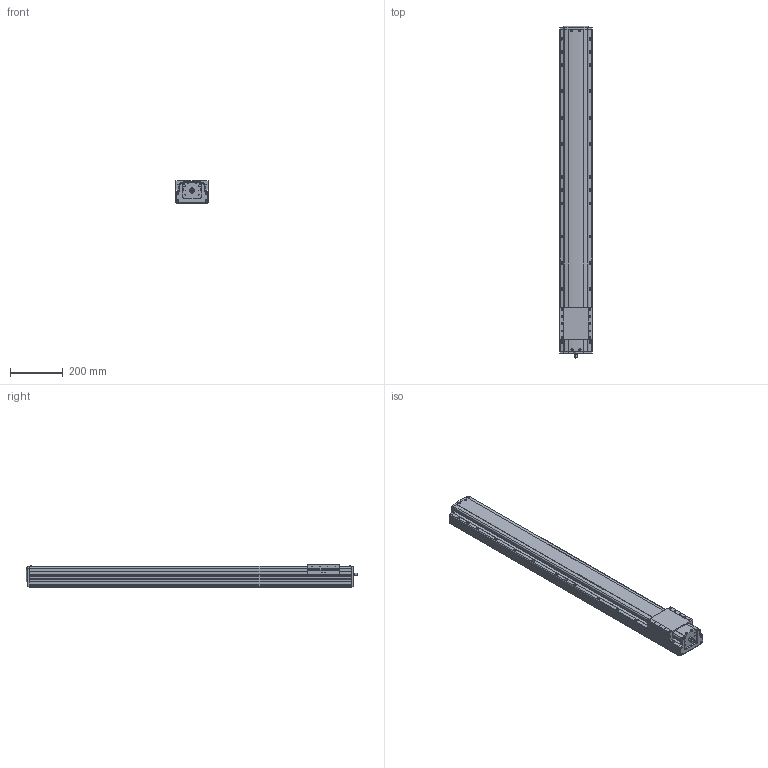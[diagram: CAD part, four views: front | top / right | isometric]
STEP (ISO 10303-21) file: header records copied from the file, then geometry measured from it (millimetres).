
FILE_DESCRIPTION(('STEP AP214'),'1');
FILE_NAME('Z:/Web/3D/PSA125/STP/PSA125-1000 (3D)/PSA125ㅁㅁ-1000.stp','2014-06-23T05:06:32',(' '),(' '),'Spatial InterOp 3D',' ',' ');
FILE_SCHEMA(('automotive_design'));
Length unit declared in the file: millimetre
Products named in the file (18): 스크루 : Round - M4.0 x 10.0; RRCV-PA120; SLIDE; BASE; FRCV-PA120-1(기준 뿔 제거); RR1500; 스크루 : Round - M4.0 x 6.0; 너트 : Square - M10.0 x 220.7419
Bounding box: 125 x 1258.1 x 86 mm (x, y, z)
Volume: 10292975.7 mm3; surface area: 790010.9 mm2
Topology: 18 solids, 18 shells, 1954 faces, 5281 edges, 3354 vertices
Faces by surface type: plane 1022, cylinder 624, cone 220, sphere 32, bspline 31, torus 25
Entity records: 78663 total; most frequent: CARTESIAN_POINT 13363, DIRECTION 10367, ORIENTED_EDGE 10278, EDGE_CURVE 5139, AXIS2_PLACEMENT_3D 3475, LINE 3417, VECTOR 3417, VERTEX_POINT 3354
